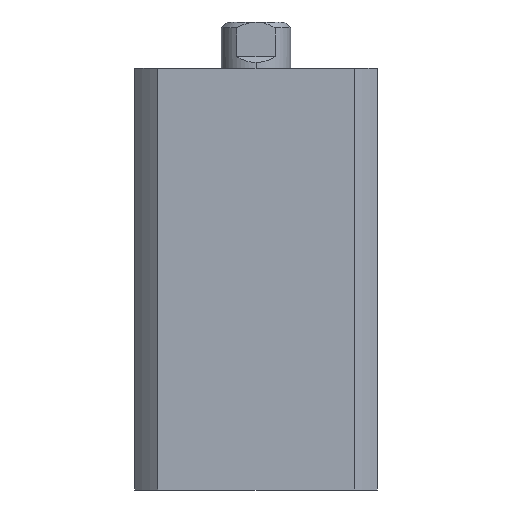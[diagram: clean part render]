
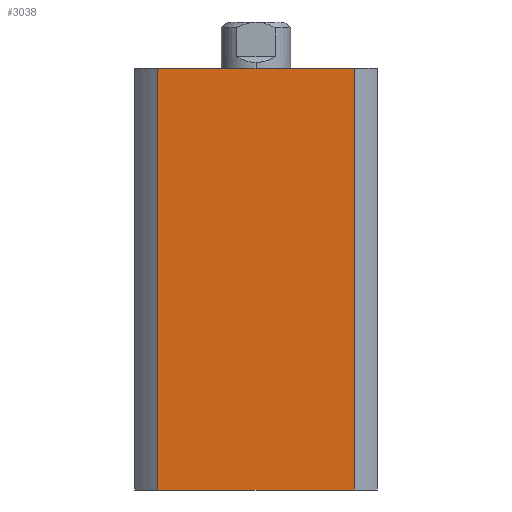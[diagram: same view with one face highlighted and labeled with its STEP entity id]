
A CAD part, left-side view. The second image highlights one B-rep face of the part: STEP entity #3038.
In plain terms, the highlighted planar face has unit normal (-1, 0, 0).
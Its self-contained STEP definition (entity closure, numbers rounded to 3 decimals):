
#875 = EDGE_CURVE ( 'NONE', #1990, #1994, #4704, .T. ) ;
#881 = EDGE_CURVE ( 'NONE', #1994, #1949, #4838, .T. ) ;
#884 = EDGE_CURVE ( 'NONE', #1950, #1990, #4832, .T. ) ;
#1241 = ORIENTED_EDGE ( 'NONE', *, *, #875, .F. ) ;
#1242 = ORIENTED_EDGE ( 'NONE', *, *, #881, .F. ) ;
#1253 = ORIENTED_EDGE ( 'NONE', *, *, #2501, .T. ) ;
#1254 = ORIENTED_EDGE ( 'NONE', *, *, #884, .F. ) ;
#1685 = EDGE_LOOP ( 'NONE', ( #1242, #1241, #1254, #1253 ) ) ;
#1949 = VERTEX_POINT ( 'NONE', #3352 ) ;
#1950 = VERTEX_POINT ( 'NONE', #3351 ) ;
#1990 = VERTEX_POINT ( 'NONE', #3298 ) ;
#1994 = VERTEX_POINT ( 'NONE', #3294 ) ;
#2501 = EDGE_CURVE ( 'NONE', #1950, #1949, #4872, .T. ) ;
#2743 = FACE_OUTER_BOUND ( 'NONE', #1685, .T. ) ;
#3038 = ADVANCED_FACE ( 'NONE', ( #2743 ), #4421, .F. ) ;
#3215 = DIRECTION ( 'NONE',  ( 0., 0., 1. ) ) ;
#3220 = CARTESIAN_POINT ( 'NONE',  ( -21., 16.971, 73. ) ) ;
#3237 = CARTESIAN_POINT ( 'NONE',  ( -21., 21., 0. ) ) ;
#3241 = DIRECTION ( 'NONE',  ( 0., -1., 0. ) ) ;
#3268 = DIRECTION ( 'NONE',  ( 0., 0., -1. ) ) ;
#3271 = CARTESIAN_POINT ( 'NONE',  ( -21., -16.971, 73. ) ) ;
#3294 = CARTESIAN_POINT ( 'NONE',  ( -21., -16.971, 73. ) ) ;
#3298 = CARTESIAN_POINT ( 'NONE',  ( -21., 16.971, 73. ) ) ;
#3319 = CARTESIAN_POINT ( 'NONE',  ( -21., 21., 73. ) ) ;
#3330 = DIRECTION ( 'NONE',  ( 0., -1., 0. ) ) ;
#3351 = CARTESIAN_POINT ( 'NONE',  ( -21., 16.971, 0. ) ) ;
#3352 = CARTESIAN_POINT ( 'NONE',  ( -21., -16.971, 0. ) ) ;
#3694 = AXIS2_PLACEMENT_3D ( 'NONE', #4429, #4414, #4412 ) ;
#4412 = DIRECTION ( 'NONE',  ( 0., 1., 0. ) ) ;
#4414 = DIRECTION ( 'NONE',  ( 1., 0., 0. ) ) ;
#4421 = PLANE ( 'NONE',  #3694 ) ;
#4429 = CARTESIAN_POINT ( 'NONE',  ( -21., 21., 73. ) ) ;
#4704 = LINE ( 'NONE', #3319, #4834 ) ;
#4832 = LINE ( 'NONE', #3220, #4852 ) ;
#4834 = VECTOR ( 'NONE', #3330, 1000. ) ;
#4838 = LINE ( 'NONE', #3271, #4854 ) ;
#4852 = VECTOR ( 'NONE', #3215, 1000. ) ;
#4854 = VECTOR ( 'NONE', #3268, 1000. ) ;
#4872 = LINE ( 'NONE', #3237, #4874 ) ;
#4874 = VECTOR ( 'NONE', #3241, 1000. ) ;
